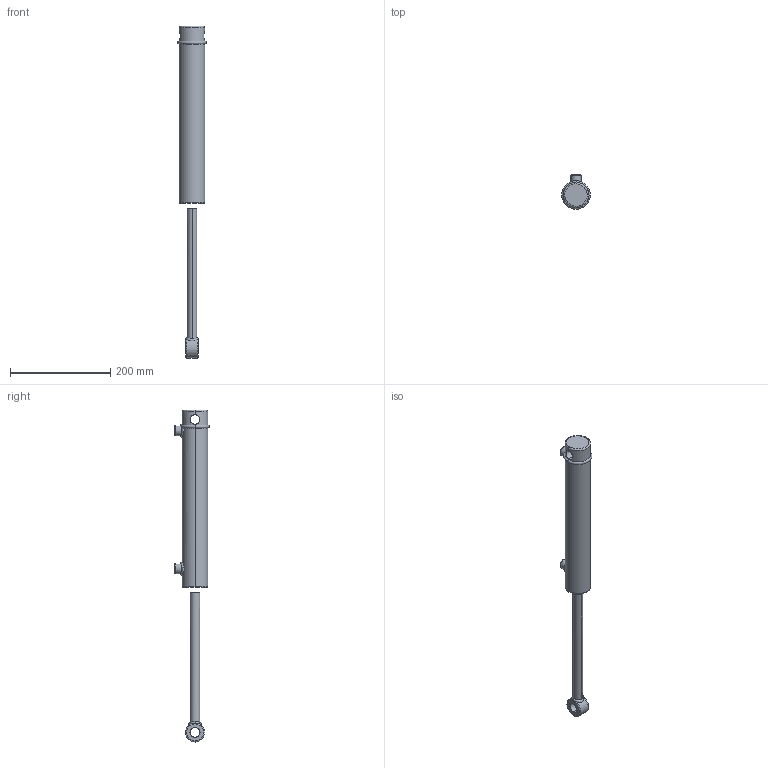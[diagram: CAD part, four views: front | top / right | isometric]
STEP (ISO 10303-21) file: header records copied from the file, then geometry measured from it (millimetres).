
FILE_DESCRIPTION (( 'STEP AP203' ), '1' );
FILE_NAME ('SB-C150075X254 (10) extended.STEP', '2014-12-18T20:06:42', ( '' ), ( '' ), 'SwSTEP 2.0', 'SolidWorks 2015', '' );
FILE_SCHEMA (( 'CONFIG_CONTROL_DESIGN' ));
Length unit declared in the file: millimetre
Products named in the file (3): BODY_10; SPARE_8; SB-C150075X254 (10) extended
Assembly tree (2 placements, depth 2):
  SB-C150075X254 (10) extended
    BODY_10
    SPARE_8
Bounding box: 56.7 x 68.75 x 662 mm (x, y, z)
Volume: 770982.2 mm3; surface area: 95385.3 mm2
Topology: 2 solids, 2 shells, 90 faces, 211 edges, 127 vertices
Faces by surface type: cylinder 32, torus 20, bspline 17, plane 13, cone 8
Entity records: 8172 total; most frequent: CARTESIAN_POINT 5968, ORIENTED_EDGE 414, DIRECTION 380, EDGE_CURVE 207, AXIS2_PLACEMENT_3D 169, VERTEX_POINT 127, EDGE_LOOP 104, CIRCLE 91
